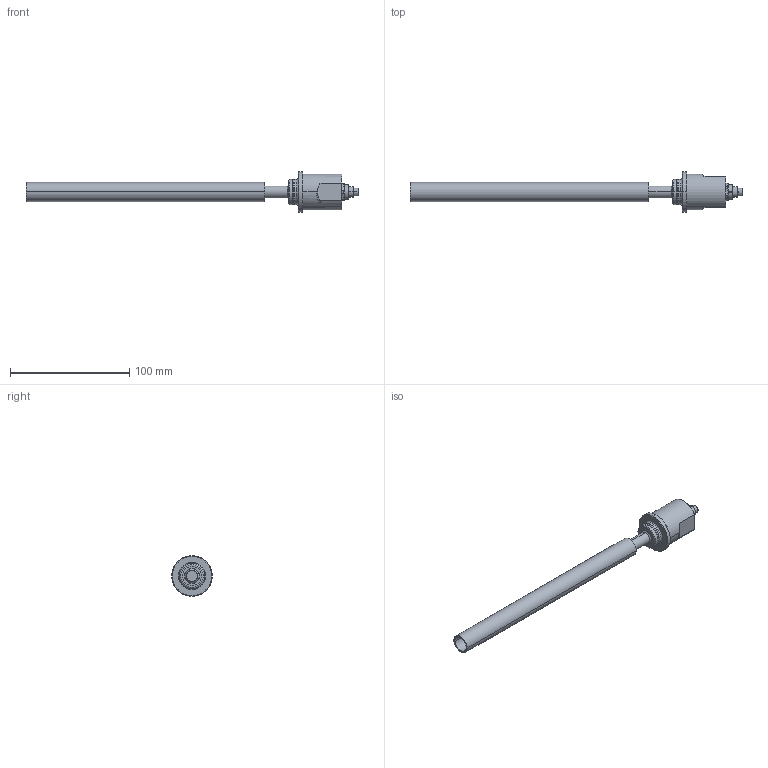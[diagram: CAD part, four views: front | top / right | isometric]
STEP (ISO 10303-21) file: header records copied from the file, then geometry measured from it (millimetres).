
FILE_DESCRIPTION((''),'2;1');
FILE_NAME('EDS-160-S-SA7_MIT_ROHR_ASM','2007-11-28T',('11000065'),(''),'PRO/ENGINEER BY PARAMETRIC TECHNOLOGY CORPORATION, 2007160','PRO/ENGINEER BY PARAMETRIC TECHNOLOGY CORPORATION, 2007160','');
FILE_SCHEMA(('AUTOMOTIVE_DESIGN { 1 2 10303 214 0 1 1 1 }'));
Length unit declared in the file: millimetre
Products named in the file (4): EDS-160-S-SA7; MESSROHR; O-RING-18X1_5; EDS-160-S-SA7_MIT_ROHR_ASM
Assembly tree (3 placements, depth 2):
  EDS-160-S-SA7_MIT_ROHR_ASM
    EDS-160-S-SA7
    MESSROHR
    O-RING-18X1_5
Bounding box: 278.19 x 34 x 34 mm (x, y, z)
Volume: 58748.6 mm3; surface area: 31999.5 mm2
Topology: 3 solids, 12 shells, 200 faces, 473 edges, 302 vertices
Faces by surface type: cylinder 95, plane 54, cone 20, sphere 14, torus 13, bspline 4
Entity records: 6556 total; most frequent: CARTESIAN_POINT 1352, DIRECTION 1098, ORIENTED_EDGE 914, AXIS2_PLACEMENT_3D 472, EDGE_CURVE 459, VERTEX_POINT 302, CIRCLE 267, EDGE_LOOP 239
